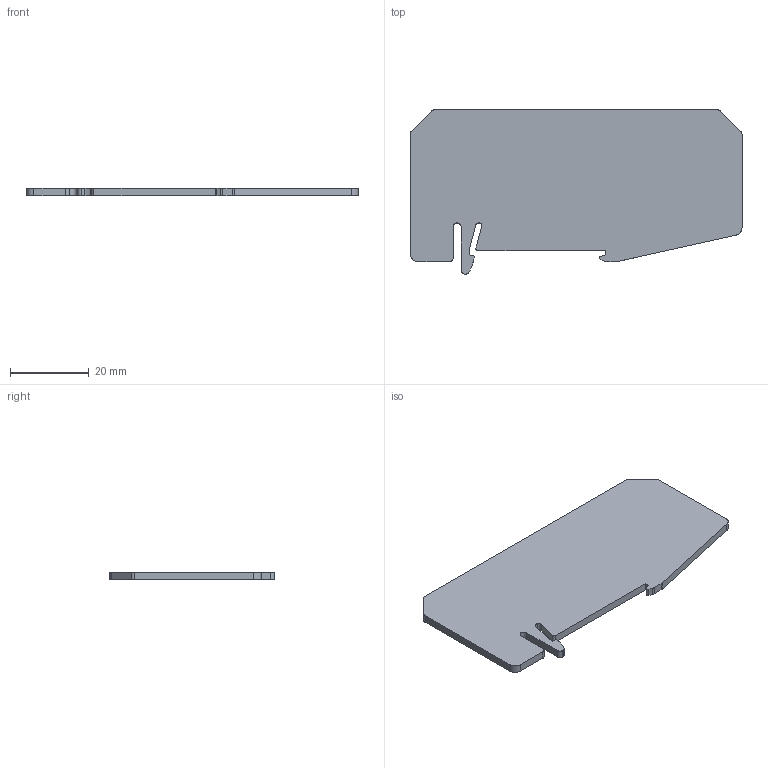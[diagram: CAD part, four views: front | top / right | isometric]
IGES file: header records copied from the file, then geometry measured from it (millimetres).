
Global section: file name: 3206212_atp_qtc_twin_select.igs; native system: OneSpace Designer 3D IGES; preprocessor: 12.01C  26-Mar-2004; date: 20040930.141625; units: millimetre
Bounding box: 84.4 x 41.75 x 2 mm (x, y, z)
Surface area: 6540 mm2 (no closed solid volume)
Topology: 0 solids, 0 shells, 40 faces, 328 edges, 328 vertices
Faces by surface type: bspline 40
